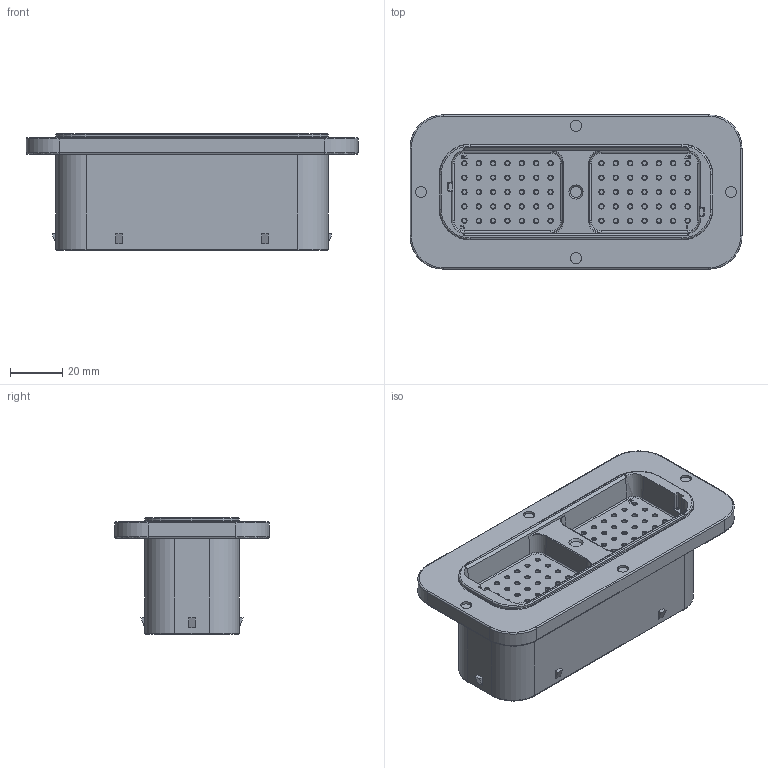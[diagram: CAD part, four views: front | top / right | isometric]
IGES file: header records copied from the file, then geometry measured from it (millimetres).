
Start section:  PTC IGES file: c-drc12-70pae-a-3d.igs
Global section: file name: c-drc12-70pae-a-3d.igs; native system: Creo Parametric by Parametric Technology Corporation; preprocessor: 2013050; author: workeradm; organization: Unknown; units: millimetre
Bounding box: 126.82 x 58.93 x 44.63 mm (x, y, z)
Surface area: 30908.1 mm2 (no closed solid volume)
Topology: 0 solids, 0 shells, 1271 faces, 5436 edges, 5436 vertices
Faces by surface type: revolution 844, bspline 427
